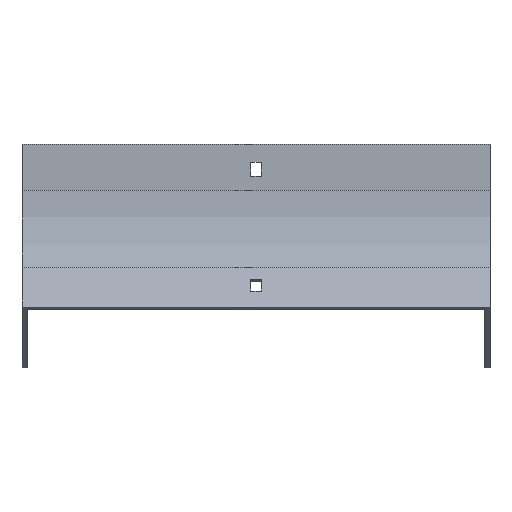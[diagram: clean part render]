
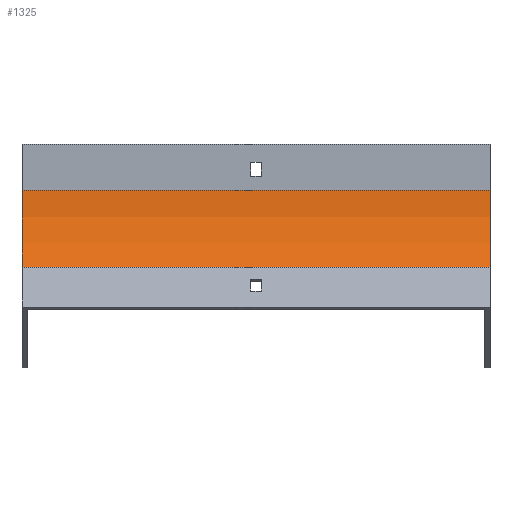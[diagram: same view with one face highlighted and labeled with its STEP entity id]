
A CAD part, front view. The second image highlights one B-rep face of the part: STEP entity #1325.
In plain terms, the highlighted cylindrical face has radius 100 mm (diameter 200 mm), a partial arc.
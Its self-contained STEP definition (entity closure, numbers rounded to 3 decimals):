
#197 = EDGE_CURVE ( 'NONE', #704, #1529, #1279, .T. ) ;
#297 = CYLINDRICAL_SURFACE ( 'NONE', #1714, 100. ) ;
#444 = ORIENTED_EDGE ( 'NONE', *, *, #1057, .T. ) ;
#494 = DIRECTION ( 'NONE',  ( 0., 0., 1. ) ) ;
#622 = CARTESIAN_POINT ( 'NONE',  ( -152., 0., -30. ) ) ;
#631 = AXIS2_PLACEMENT_3D ( 'NONE', #1649, #767, #494 ) ;
#652 = EDGE_LOOP ( 'NONE', ( #444, #871, #1742, #1107 ) ) ;
#700 = DIRECTION ( 'NONE',  ( -1., 0., 0. ) ) ;
#704 = VERTEX_POINT ( 'NONE', #1638 ) ;
#712 = CARTESIAN_POINT ( 'NONE',  ( 152., 0., -30. ) ) ;
#734 = VERTEX_POINT ( 'NONE', #622 ) ;
#751 = FACE_OUTER_BOUND ( 'NONE', #652, .T. ) ;
#767 = DIRECTION ( 'NONE',  ( -1., 0., 0. ) ) ;
#866 = VECTOR ( 'NONE', #700, 1000. ) ;
#871 = ORIENTED_EDGE ( 'NONE', *, *, #197, .F. ) ;
#890 = LINE ( 'NONE', #712, #1441 ) ;
#892 = DIRECTION ( 'NONE',  ( 0., 0., 1. ) ) ;
#947 = DIRECTION ( 'NONE',  ( 0., 0., 1. ) ) ;
#1057 = EDGE_CURVE ( 'NONE', #734, #1529, #1559, .T. ) ;
#1107 = ORIENTED_EDGE ( 'NONE', *, *, #1747, .T. ) ;
#1122 = AXIS2_PLACEMENT_3D ( 'NONE', #1401, #1867, #947 ) ;
#1156 = CARTESIAN_POINT ( 'NONE',  ( 152., 0., -30. ) ) ;
#1279 = LINE ( 'NONE', #1459, #866 ) ;
#1301 = CARTESIAN_POINT ( 'NONE',  ( 152., -100., -30. ) ) ;
#1325 = ADVANCED_FACE ( 'NONE', ( #751 ), #297, .F. ) ;
#1332 = DIRECTION ( 'NONE',  ( -1., 0., 0. ) ) ;
#1401 = CARTESIAN_POINT ( 'NONE',  ( -152., -100., -30. ) ) ;
#1441 = VECTOR ( 'NONE', #1777, 1000. ) ;
#1459 = CARTESIAN_POINT ( 'NONE',  ( 152., -13.397, -80. ) ) ;
#1529 = VERTEX_POINT ( 'NONE', #1699 ) ;
#1559 = CIRCLE ( 'NONE', #1122, 100. ) ;
#1638 = CARTESIAN_POINT ( 'NONE',  ( 152., -13.397, -80. ) ) ;
#1649 = CARTESIAN_POINT ( 'NONE',  ( 152., -100., -30. ) ) ;
#1699 = CARTESIAN_POINT ( 'NONE',  ( -152., -13.397, -80. ) ) ;
#1714 = AXIS2_PLACEMENT_3D ( 'NONE', #1301, #1332, #892 ) ;
#1742 = ORIENTED_EDGE ( 'NONE', *, *, #1828, .F. ) ;
#1747 = EDGE_CURVE ( 'NONE', #1758, #734, #890, .T. ) ;
#1758 = VERTEX_POINT ( 'NONE', #1156 ) ;
#1777 = DIRECTION ( 'NONE',  ( -1., 0., 0. ) ) ;
#1828 = EDGE_CURVE ( 'NONE', #1758, #704, #1845, .T. ) ;
#1845 = CIRCLE ( 'NONE', #631, 100. ) ;
#1867 = DIRECTION ( 'NONE',  ( -1., 0., 0. ) ) ;
